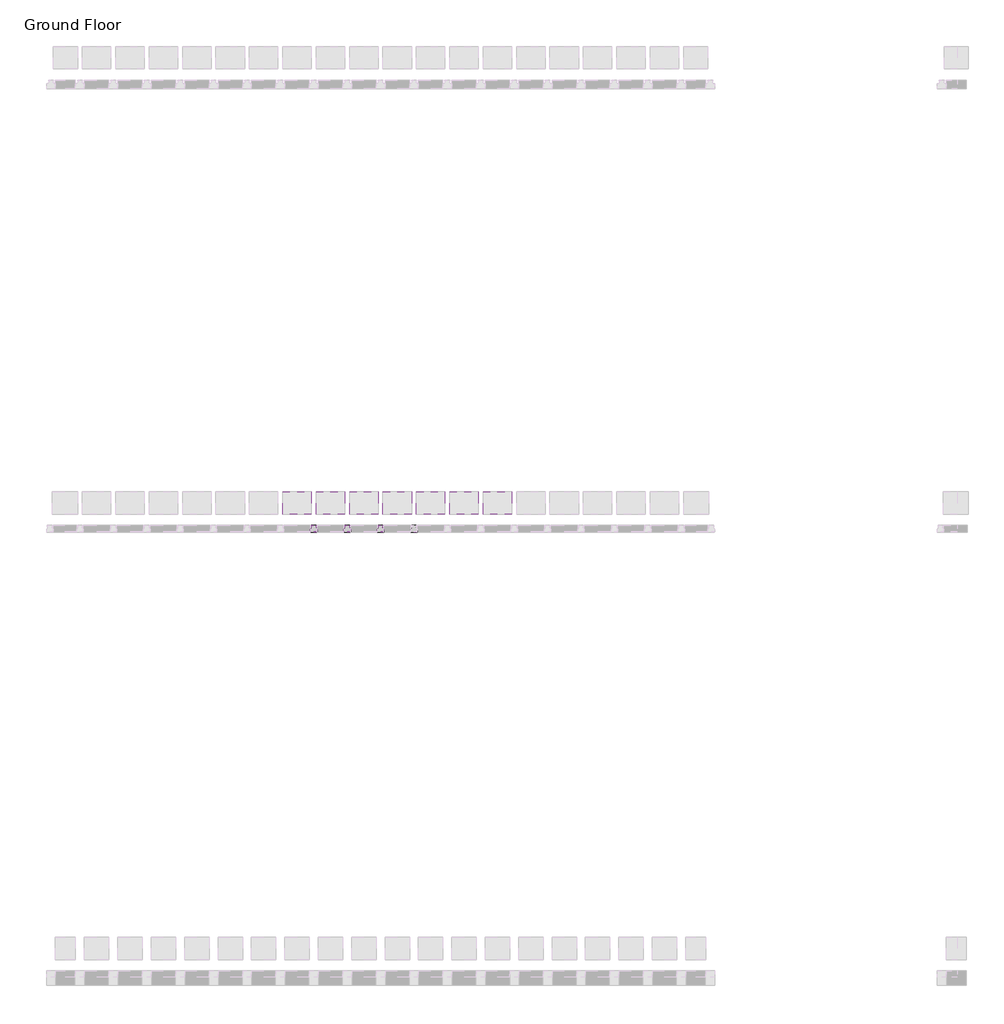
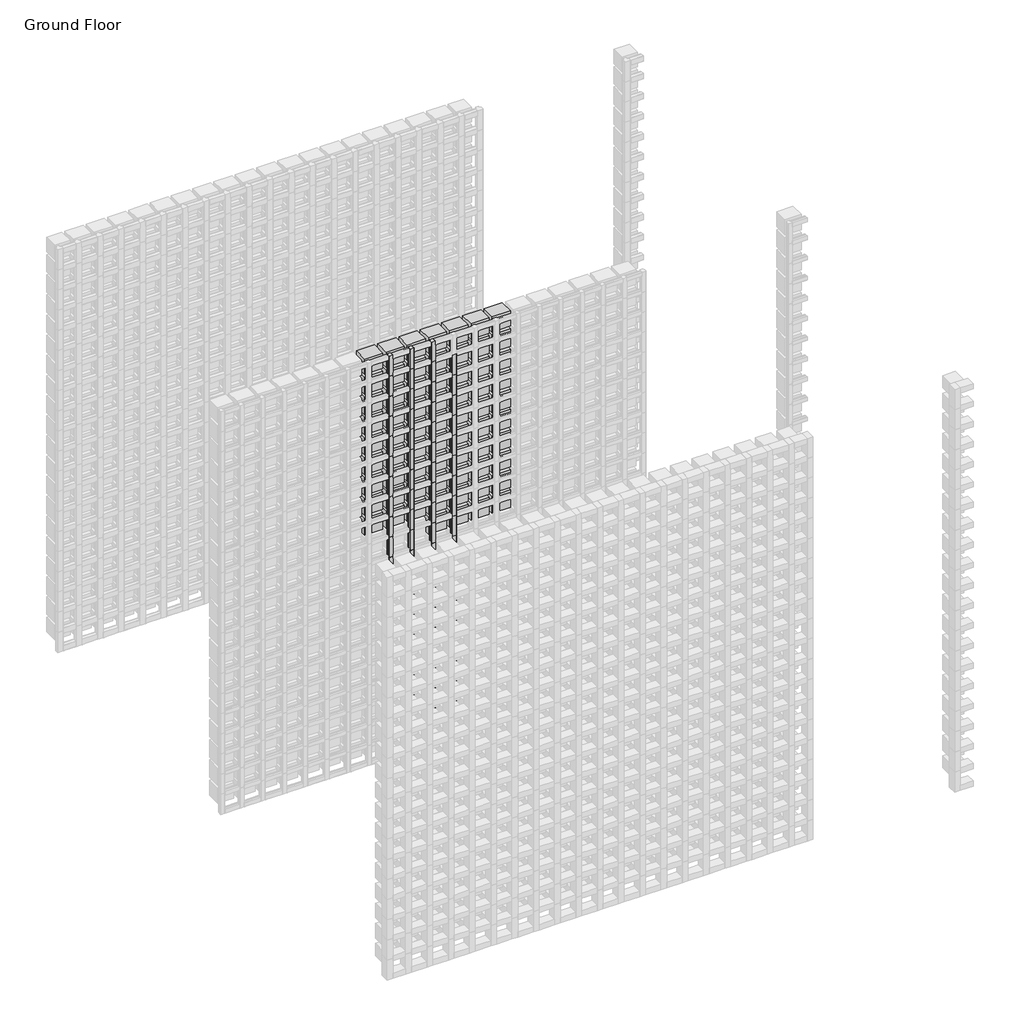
# One storey, part 139 of 350: 75 members, 67 plates.
"""IFC4 building model written with IfcOpenShell, lengths in millimetres."""

from ifc_helpers import new_model, si_unit, origin, place, context, project, spatial, transform, mapped, element, save
from components import rectangular_mullion_f1976eb1, empty_system_panel_empty_5a3607ba, empty_system_panel_empty_babc703c

model = new_model("IFC4")

# Units and contexts
model_context = context("Model", 3, world=origin())
ifc_project = project(units=[si_unit("LENGTHUNIT", "METRE", prefix="MILLI")], contexts=[model_context])

# Site, building, storey
site = spatial("IfcSite", under=ifc_project)
building = spatial("IfcBuilding", under=site)
storey = spatial("IfcBuildingStorey", under=building, Name="Ground Floor", Elevation=0.0)

# Members
placement = place(None, origin())
rectangular_mullion_shape = rectangular_mullion_f1976eb1(model_context)
element("IfcMember", 1, ObjectType="Rectangular Mullion : Batten_Timber_Modinex_Austratus_Grid_Fin_30x30_Hemlock", at=placement, inside=storey, context=model_context, shape_type="MappedRepresentation", body=[
    mapped(rectangular_mullion_shape, transform((11116.4361642, 42968.2978302, 150.0), x_axis=(1.0, 0.0, 0.0), y_axis=(0.0, -1.0, 0.0), z_axis=(0.0, 0.0, -1.0))),
])
element("IfcMember", 2, ObjectType="Rectangular Mullion : Batten_Timber_Modinex_Austratus_Grid_Fin_30x30_Hemlock", at=placement, inside=storey, context=model_context, shape_type="MappedRepresentation", body=[
    mapped(rectangular_mullion_shape, transform((11116.4361642, 42968.2978302, 300.0), x_axis=(1.0, 0.0, 0.0), y_axis=(0.0, -1.0, 0.0), z_axis=(0.0, 0.0, -1.0))),
])
element("IfcMember", 3, ObjectType="Rectangular Mullion : Batten_Timber_Modinex_Austratus_Grid_Fin_30x30_Hemlock", at=placement, inside=storey, context=model_context, shape_type="MappedRepresentation", body=[
    mapped(rectangular_mullion_shape, transform((11116.4361642, 42968.2978302, 450.0), x_axis=(1.0, 0.0, 0.0), y_axis=(0.0, -1.0, 0.0), z_axis=(0.0, 0.0, -1.0))),
])
element("IfcMember", 4, ObjectType="Rectangular Mullion : Batten_Timber_Modinex_Austratus_Grid_Fin_30x30_Hemlock", at=placement, inside=storey, context=model_context, shape_type="MappedRepresentation", body=[
    mapped(rectangular_mullion_shape, transform((11116.4361642, 42968.2978302, 600.0), x_axis=(1.0, 0.0, 0.0), y_axis=(0.0, -1.0, 0.0), z_axis=(0.0, 0.0, -1.0))),
])
element("IfcMember", 5, ObjectType="Rectangular Mullion : Batten_Timber_Modinex_Austratus_Grid_Fin_30x30_Hemlock", at=placement, inside=storey, context=model_context, shape_type="MappedRepresentation", body=[
    mapped(rectangular_mullion_shape, transform((11116.4361642, 42968.2978302, 750.0), x_axis=(1.0, 0.0, 0.0), y_axis=(0.0, -1.0, 0.0), z_axis=(0.0, 0.0, -1.0))),
])
element("IfcMember", 6, ObjectType="Rectangular Mullion : Batten_Timber_Modinex_Austratus_Grid_Fin_30x30_Hemlock", at=placement, inside=storey, context=model_context, shape_type="MappedRepresentation", body=[
    mapped(rectangular_mullion_shape, transform((11116.4361642, 42968.2978302, 900.0), x_axis=(1.0, 0.0, 0.0), y_axis=(0.0, -1.0, 0.0), z_axis=(0.0, 0.0, -1.0))),
])
element("IfcMember", 7, ObjectType="Rectangular Mullion : Batten_Timber_Modinex_Austratus_Grid_Fin_30x30_Hemlock", at=placement, inside=storey, context=model_context, shape_type="MappedRepresentation", body=[
    mapped(rectangular_mullion_shape, transform((11116.4361642, 42968.2978302, 1050.0), x_axis=(1.0, 0.0, 0.0), y_axis=(0.0, -1.0, 0.0), z_axis=(0.0, 0.0, -1.0))),
])
element("IfcMember", 8, ObjectType="Rectangular Mullion : Batten_Timber_Modinex_Austratus_Grid_Fin_30x30_Hemlock", at=placement, inside=storey, context=model_context, shape_type="MappedRepresentation", body=[
    mapped(rectangular_mullion_shape, transform((11116.4361642, 42968.2978302, 1200.0), x_axis=(1.0, 0.0, 0.0), y_axis=(0.0, -1.0, 0.0), z_axis=(0.0, 0.0, -1.0))),
])
element("IfcMember", 9, ObjectType="Rectangular Mullion : Batten_Timber_Modinex_Austratus_Grid_Fin_30x30_Hemlock", at=placement, inside=storey, context=model_context, shape_type="MappedRepresentation", body=[
    mapped(rectangular_mullion_shape, transform((11116.4361642, 42968.2978302, 1350.0), x_axis=(1.0, 0.0, 0.0), y_axis=(0.0, -1.0, 0.0), z_axis=(0.0, 0.0, -1.0))),
])
element("IfcMember", 10, ObjectType="Rectangular Mullion : Batten_Timber_Modinex_Austratus_Grid_Fin_30x30_Hemlock", at=placement, inside=storey, context=model_context, shape_type="MappedRepresentation", body=[
    mapped(rectangular_mullion_shape, transform((11116.4361642, 42968.2978302, 1500.0), x_axis=(1.0, 0.0, 0.0), y_axis=(0.0, -1.0, 0.0), z_axis=(0.0, 0.0, -1.0))),
])
element("IfcMember", 11, ObjectType="Rectangular Mullion : Batten_Timber_Modinex_Austratus_Grid_Fin_30x30_Hemlock", at=placement, inside=storey, context=model_context, shape_type="MappedRepresentation", body=[
    mapped(rectangular_mullion_shape, transform((11116.4361642, 42968.2978302, 1650.0), x_axis=(1.0, 0.0, 0.0), y_axis=(0.0, -1.0, 0.0), z_axis=(0.0, 0.0, -1.0))),
])
element("IfcMember", 12, ObjectType="Rectangular Mullion : Batten_Timber_Modinex_Austratus_Grid_Fin_30x30_Hemlock", at=placement, inside=storey, context=model_context, shape_type="MappedRepresentation", body=[
    mapped(rectangular_mullion_shape, transform((11116.4361642, 42968.2978302, 1800.0), x_axis=(1.0, 0.0, 0.0), y_axis=(0.0, -1.0, 0.0), z_axis=(0.0, 0.0, -1.0))),
])
element("IfcMember", 13, ObjectType="Rectangular Mullion : Batten_Timber_Modinex_Austratus_Grid_Fin_30x30_Hemlock", at=placement, inside=storey, context=model_context, shape_type="MappedRepresentation", body=[
    mapped(rectangular_mullion_shape, transform((11116.4361642, 42968.2978302, 1950.0), x_axis=(1.0, 0.0, 0.0), y_axis=(0.0, -1.0, 0.0), z_axis=(0.0, 0.0, -1.0))),
])
element("IfcMember", 14, ObjectType="Rectangular Mullion : Batten_Timber_Modinex_Austratus_Grid_Fin_30x30_Hemlock", at=placement, inside=storey, context=model_context, shape_type="MappedRepresentation", body=[
    mapped(rectangular_mullion_shape, transform((11116.4361642, 42968.2978302, 2100.0), x_axis=(1.0, 0.0, 0.0), y_axis=(0.0, -1.0, 0.0), z_axis=(0.0, 0.0, -1.0))),
])
element("IfcMember", 15, ObjectType="Rectangular Mullion : Batten_Timber_Modinex_Austratus_Grid_Fin_30x30_Hemlock", at=placement, inside=storey, context=model_context, shape_type="MappedRepresentation", body=[
    mapped(rectangular_mullion_shape, transform((11116.4361642, 42968.2978302, 2250.0), x_axis=(1.0, 0.0, 0.0), y_axis=(0.0, -1.0, 0.0), z_axis=(0.0, 0.0, -1.0))),
])
element("IfcMember", 16, ObjectType="Rectangular Mullion : Batten_Timber_Modinex_Austratus_Grid_Fin_30x30_Hemlock", at=placement, inside=storey, context=model_context, shape_type="MappedRepresentation", body=[
    mapped(rectangular_mullion_shape, transform((11116.4361642, 42968.2978302, 2400.0), x_axis=(1.0, 0.0, 0.0), y_axis=(0.0, -1.0, 0.0), z_axis=(0.0, 0.0, -1.0))),
])
element("IfcMember", 17, ObjectType="Rectangular Mullion : Batten_Timber_Modinex_Austratus_Grid_Fin_30x30_Hemlock", at=placement, inside=storey, context=model_context, shape_type="MappedRepresentation", body=[
    mapped(rectangular_mullion_shape, transform((11116.4361642, 42968.2978302, 2550.0), x_axis=(1.0, 0.0, 0.0), y_axis=(0.0, -1.0, 0.0), z_axis=(0.0, 0.0, -1.0))),
])
element("IfcMember", 18, ObjectType="Rectangular Mullion : Batten_Timber_Modinex_Austratus_Grid_Fin_30x30_Hemlock", at=placement, inside=storey, context=model_context, shape_type="MappedRepresentation", body=[
    mapped(rectangular_mullion_shape, transform((11116.4361642, 42968.2978302, 2700.0), x_axis=(1.0, 0.0, 0.0), y_axis=(0.0, -1.0, 0.0), z_axis=(0.0, 0.0, -1.0))),
])
element("IfcMember", 19, ObjectType="Rectangular Mullion : Batten_Timber_Modinex_Austratus_Grid_Fin_30x30_Hemlock", at=placement, inside=storey, context=model_context, shape_type="MappedRepresentation", body=[
    mapped(rectangular_mullion_shape, transform((11266.4361642, 42968.2978302, 150.0), x_axis=(1.0, 0.0, 0.0), y_axis=(0.0, -1.0, 0.0), z_axis=(0.0, 0.0, -1.0))),
])
element("IfcMember", 20, ObjectType="Rectangular Mullion : Batten_Timber_Modinex_Austratus_Grid_Fin_30x30_Hemlock", at=placement, inside=storey, context=model_context, shape_type="MappedRepresentation", body=[
    mapped(rectangular_mullion_shape, transform((11266.4361642, 42968.2978302, 300.0), x_axis=(1.0, 0.0, 0.0), y_axis=(0.0, -1.0, 0.0), z_axis=(0.0, 0.0, -1.0))),
])
element("IfcMember", 21, ObjectType="Rectangular Mullion : Batten_Timber_Modinex_Austratus_Grid_Fin_30x30_Hemlock", at=placement, inside=storey, context=model_context, shape_type="MappedRepresentation", body=[
    mapped(rectangular_mullion_shape, transform((11266.4361642, 42968.2978302, 450.0), x_axis=(1.0, 0.0, 0.0), y_axis=(0.0, -1.0, 0.0), z_axis=(0.0, 0.0, -1.0))),
])
element("IfcMember", 22, ObjectType="Rectangular Mullion : Batten_Timber_Modinex_Austratus_Grid_Fin_30x30_Hemlock", at=placement, inside=storey, context=model_context, shape_type="MappedRepresentation", body=[
    mapped(rectangular_mullion_shape, transform((11266.4361642, 42968.2978302, 600.0), x_axis=(1.0, 0.0, 0.0), y_axis=(0.0, -1.0, 0.0), z_axis=(0.0, 0.0, -1.0))),
])
element("IfcMember", 23, ObjectType="Rectangular Mullion : Batten_Timber_Modinex_Austratus_Grid_Fin_30x30_Hemlock", at=placement, inside=storey, context=model_context, shape_type="MappedRepresentation", body=[
    mapped(rectangular_mullion_shape, transform((11266.4361642, 42968.2978302, 750.0), x_axis=(1.0, 0.0, 0.0), y_axis=(0.0, -1.0, 0.0), z_axis=(0.0, 0.0, -1.0))),
])
element("IfcMember", 24, ObjectType="Rectangular Mullion : Batten_Timber_Modinex_Austratus_Grid_Fin_30x30_Hemlock", at=placement, inside=storey, context=model_context, shape_type="MappedRepresentation", body=[
    mapped(rectangular_mullion_shape, transform((11266.4361642, 42968.2978302, 900.0), x_axis=(1.0, 0.0, 0.0), y_axis=(0.0, -1.0, 0.0), z_axis=(0.0, 0.0, -1.0))),
])
element("IfcMember", 25, ObjectType="Rectangular Mullion : Batten_Timber_Modinex_Austratus_Grid_Fin_30x30_Hemlock", at=placement, inside=storey, context=model_context, shape_type="MappedRepresentation", body=[
    mapped(rectangular_mullion_shape, transform((11266.4361642, 42968.2978302, 1050.0), x_axis=(1.0, 0.0, 0.0), y_axis=(0.0, -1.0, 0.0), z_axis=(0.0, 0.0, -1.0))),
])
element("IfcMember", 26, ObjectType="Rectangular Mullion : Batten_Timber_Modinex_Austratus_Grid_Fin_30x30_Hemlock", at=placement, inside=storey, context=model_context, shape_type="MappedRepresentation", body=[
    mapped(rectangular_mullion_shape, transform((11266.4361642, 42968.2978302, 1200.0), x_axis=(1.0, 0.0, 0.0), y_axis=(0.0, -1.0, 0.0), z_axis=(0.0, 0.0, -1.0))),
])
element("IfcMember", 27, ObjectType="Rectangular Mullion : Batten_Timber_Modinex_Austratus_Grid_Fin_30x30_Hemlock", at=placement, inside=storey, context=model_context, shape_type="MappedRepresentation", body=[
    mapped(rectangular_mullion_shape, transform((11266.4361642, 42968.2978302, 1350.0), x_axis=(1.0, 0.0, 0.0), y_axis=(0.0, -1.0, 0.0), z_axis=(0.0, 0.0, -1.0))),
])
element("IfcMember", 28, ObjectType="Rectangular Mullion : Batten_Timber_Modinex_Austratus_Grid_Fin_30x30_Hemlock", at=placement, inside=storey, context=model_context, shape_type="MappedRepresentation", body=[
    mapped(rectangular_mullion_shape, transform((11266.4361642, 42968.2978302, 1500.0), x_axis=(1.0, 0.0, 0.0), y_axis=(0.0, -1.0, 0.0), z_axis=(0.0, 0.0, -1.0))),
])
element("IfcMember", 29, ObjectType="Rectangular Mullion : Batten_Timber_Modinex_Austratus_Grid_Fin_30x30_Hemlock", at=placement, inside=storey, context=model_context, shape_type="MappedRepresentation", body=[
    mapped(rectangular_mullion_shape, transform((11266.4361642, 42968.2978302, 1650.0), x_axis=(1.0, 0.0, 0.0), y_axis=(0.0, -1.0, 0.0), z_axis=(0.0, 0.0, -1.0))),
])
element("IfcMember", 30, ObjectType="Rectangular Mullion : Batten_Timber_Modinex_Austratus_Grid_Fin_30x30_Hemlock", at=placement, inside=storey, context=model_context, shape_type="MappedRepresentation", body=[
    mapped(rectangular_mullion_shape, transform((11266.4361642, 42968.2978302, 1800.0), x_axis=(1.0, 0.0, 0.0), y_axis=(0.0, -1.0, 0.0), z_axis=(0.0, 0.0, -1.0))),
])
element("IfcMember", 31, ObjectType="Rectangular Mullion : Batten_Timber_Modinex_Austratus_Grid_Fin_30x30_Hemlock", at=placement, inside=storey, context=model_context, shape_type="MappedRepresentation", body=[
    mapped(rectangular_mullion_shape, transform((11266.4361642, 42968.2978302, 1950.0), x_axis=(1.0, 0.0, 0.0), y_axis=(0.0, -1.0, 0.0), z_axis=(0.0, 0.0, -1.0))),
])
element("IfcMember", 32, ObjectType="Rectangular Mullion : Batten_Timber_Modinex_Austratus_Grid_Fin_30x30_Hemlock", at=placement, inside=storey, context=model_context, shape_type="MappedRepresentation", body=[
    mapped(rectangular_mullion_shape, transform((11266.4361642, 42968.2978302, 2100.0), x_axis=(1.0, 0.0, 0.0), y_axis=(0.0, -1.0, 0.0), z_axis=(0.0, 0.0, -1.0))),
])
element("IfcMember", 33, ObjectType="Rectangular Mullion : Batten_Timber_Modinex_Austratus_Grid_Fin_30x30_Hemlock", at=placement, inside=storey, context=model_context, shape_type="MappedRepresentation", body=[
    mapped(rectangular_mullion_shape, transform((11266.4361642, 42968.2978302, 2250.0), x_axis=(1.0, 0.0, 0.0), y_axis=(0.0, -1.0, 0.0), z_axis=(0.0, 0.0, -1.0))),
])
element("IfcMember", 34, ObjectType="Rectangular Mullion : Batten_Timber_Modinex_Austratus_Grid_Fin_30x30_Hemlock", at=placement, inside=storey, context=model_context, shape_type="MappedRepresentation", body=[
    mapped(rectangular_mullion_shape, transform((11266.4361642, 42968.2978302, 2400.0), x_axis=(1.0, 0.0, 0.0), y_axis=(0.0, -1.0, 0.0), z_axis=(0.0, 0.0, -1.0))),
])
element("IfcMember", 35, ObjectType="Rectangular Mullion : Batten_Timber_Modinex_Austratus_Grid_Fin_30x30_Hemlock", at=placement, inside=storey, context=model_context, shape_type="MappedRepresentation", body=[
    mapped(rectangular_mullion_shape, transform((11266.4361642, 42968.2978302, 2550.0), x_axis=(1.0, 0.0, 0.0), y_axis=(0.0, -1.0, 0.0), z_axis=(0.0, 0.0, -1.0))),
])
element("IfcMember", 36, ObjectType="Rectangular Mullion : Batten_Timber_Modinex_Austratus_Grid_Fin_30x30_Hemlock", at=placement, inside=storey, context=model_context, shape_type="MappedRepresentation", body=[
    mapped(rectangular_mullion_shape, transform((11266.4361642, 42968.2978302, 2700.0), x_axis=(1.0, 0.0, 0.0), y_axis=(0.0, -1.0, 0.0), z_axis=(0.0, 0.0, -1.0))),
])
element("IfcMember", 37, ObjectType="Rectangular Mullion : Batten_Timber_Modinex_Austratus_Grid_Fin_30x30_Hemlock", at=placement, inside=storey, context=model_context, shape_type="MappedRepresentation", body=[
    mapped(rectangular_mullion_shape, transform((11416.4361642, 42968.2978302, 150.0), x_axis=(1.0, 0.0, 0.0), y_axis=(0.0, -1.0, 0.0), z_axis=(0.0, 0.0, -1.0))),
])
element("IfcMember", 38, ObjectType="Rectangular Mullion : Batten_Timber_Modinex_Austratus_Grid_Fin_30x30_Hemlock", at=placement, inside=storey, context=model_context, shape_type="MappedRepresentation", body=[
    mapped(rectangular_mullion_shape, transform((11416.4361642, 42968.2978302, 300.0), x_axis=(1.0, 0.0, 0.0), y_axis=(0.0, -1.0, 0.0), z_axis=(0.0, 0.0, -1.0))),
])
element("IfcMember", 39, ObjectType="Rectangular Mullion : Batten_Timber_Modinex_Austratus_Grid_Fin_30x30_Hemlock", at=placement, inside=storey, context=model_context, shape_type="MappedRepresentation", body=[
    mapped(rectangular_mullion_shape, transform((11416.4361642, 42968.2978302, 450.0), x_axis=(1.0, 0.0, 0.0), y_axis=(0.0, -1.0, 0.0), z_axis=(0.0, 0.0, -1.0))),
])
element("IfcMember", 40, ObjectType="Rectangular Mullion : Batten_Timber_Modinex_Austratus_Grid_Fin_30x30_Hemlock", at=placement, inside=storey, context=model_context, shape_type="MappedRepresentation", body=[
    mapped(rectangular_mullion_shape, transform((11416.4361642, 42968.2978302, 600.0), x_axis=(1.0, 0.0, 0.0), y_axis=(0.0, -1.0, 0.0), z_axis=(0.0, 0.0, -1.0))),
])
element("IfcMember", 41, ObjectType="Rectangular Mullion : Batten_Timber_Modinex_Austratus_Grid_Fin_30x30_Hemlock", at=placement, inside=storey, context=model_context, shape_type="MappedRepresentation", body=[
    mapped(rectangular_mullion_shape, transform((11416.4361642, 42968.2978302, 750.0), x_axis=(1.0, 0.0, 0.0), y_axis=(0.0, -1.0, 0.0), z_axis=(0.0, 0.0, -1.0))),
])
element("IfcMember", 42, ObjectType="Rectangular Mullion : Batten_Timber_Modinex_Austratus_Grid_Fin_30x30_Hemlock", at=placement, inside=storey, context=model_context, shape_type="MappedRepresentation", body=[
    mapped(rectangular_mullion_shape, transform((11416.4361642, 42968.2978302, 900.0), x_axis=(1.0, 0.0, 0.0), y_axis=(0.0, -1.0, 0.0), z_axis=(0.0, 0.0, -1.0))),
])
element("IfcMember", 43, ObjectType="Rectangular Mullion : Batten_Timber_Modinex_Austratus_Grid_Fin_30x30_Hemlock", at=placement, inside=storey, context=model_context, shape_type="MappedRepresentation", body=[
    mapped(rectangular_mullion_shape, transform((11416.4361642, 42968.2978302, 1050.0), x_axis=(1.0, 0.0, 0.0), y_axis=(0.0, -1.0, 0.0), z_axis=(0.0, 0.0, -1.0))),
])
element("IfcMember", 44, ObjectType="Rectangular Mullion : Batten_Timber_Modinex_Austratus_Grid_Fin_30x30_Hemlock", at=placement, inside=storey, context=model_context, shape_type="MappedRepresentation", body=[
    mapped(rectangular_mullion_shape, transform((11416.4361642, 42968.2978302, 1200.0), x_axis=(1.0, 0.0, 0.0), y_axis=(0.0, -1.0, 0.0), z_axis=(0.0, 0.0, -1.0))),
])
element("IfcMember", 45, ObjectType="Rectangular Mullion : Batten_Timber_Modinex_Austratus_Grid_Fin_30x30_Hemlock", at=placement, inside=storey, context=model_context, shape_type="MappedRepresentation", body=[
    mapped(rectangular_mullion_shape, transform((11416.4361642, 42968.2978302, 1350.0), x_axis=(1.0, 0.0, 0.0), y_axis=(0.0, -1.0, 0.0), z_axis=(0.0, 0.0, -1.0))),
])
element("IfcMember", 46, ObjectType="Rectangular Mullion : Batten_Timber_Modinex_Austratus_Grid_Fin_30x30_Hemlock", at=placement, inside=storey, context=model_context, shape_type="MappedRepresentation", body=[
    mapped(rectangular_mullion_shape, transform((11416.4361642, 42968.2978302, 1500.0), x_axis=(1.0, 0.0, 0.0), y_axis=(0.0, -1.0, 0.0), z_axis=(0.0, 0.0, -1.0))),
])
element("IfcMember", 47, ObjectType="Rectangular Mullion : Batten_Timber_Modinex_Austratus_Grid_Fin_30x30_Hemlock", at=placement, inside=storey, context=model_context, shape_type="MappedRepresentation", body=[
    mapped(rectangular_mullion_shape, transform((11416.4361642, 42968.2978302, 1650.0), x_axis=(1.0, 0.0, 0.0), y_axis=(0.0, -1.0, 0.0), z_axis=(0.0, 0.0, -1.0))),
])
element("IfcMember", 48, ObjectType="Rectangular Mullion : Batten_Timber_Modinex_Austratus_Grid_Fin_30x30_Hemlock", at=placement, inside=storey, context=model_context, shape_type="MappedRepresentation", body=[
    mapped(rectangular_mullion_shape, transform((11416.4361642, 42968.2978302, 1800.0), x_axis=(1.0, 0.0, 0.0), y_axis=(0.0, -1.0, 0.0), z_axis=(0.0, 0.0, -1.0))),
])
element("IfcMember", 49, ObjectType="Rectangular Mullion : Batten_Timber_Modinex_Austratus_Grid_Fin_30x30_Hemlock", at=placement, inside=storey, context=model_context, shape_type="MappedRepresentation", body=[
    mapped(rectangular_mullion_shape, transform((11416.4361642, 42968.2978302, 1950.0), x_axis=(1.0, 0.0, 0.0), y_axis=(0.0, -1.0, 0.0), z_axis=(0.0, 0.0, -1.0))),
])
element("IfcMember", 50, ObjectType="Rectangular Mullion : Batten_Timber_Modinex_Austratus_Grid_Fin_30x30_Hemlock", at=placement, inside=storey, context=model_context, shape_type="MappedRepresentation", body=[
    mapped(rectangular_mullion_shape, transform((11416.4361642, 42968.2978302, 2100.0), x_axis=(1.0, 0.0, 0.0), y_axis=(0.0, -1.0, 0.0), z_axis=(0.0, 0.0, -1.0))),
])
element("IfcMember", 51, ObjectType="Rectangular Mullion : Batten_Timber_Modinex_Austratus_Grid_Fin_30x30_Hemlock", at=placement, inside=storey, context=model_context, shape_type="MappedRepresentation", body=[
    mapped(rectangular_mullion_shape, transform((11416.4361642, 42968.2978302, 2250.0), x_axis=(1.0, 0.0, 0.0), y_axis=(0.0, -1.0, 0.0), z_axis=(0.0, 0.0, -1.0))),
])
element("IfcMember", 52, ObjectType="Rectangular Mullion : Batten_Timber_Modinex_Austratus_Grid_Fin_30x30_Hemlock", at=placement, inside=storey, context=model_context, shape_type="MappedRepresentation", body=[
    mapped(rectangular_mullion_shape, transform((11416.4361642, 42968.2978302, 2400.0), x_axis=(1.0, 0.0, 0.0), y_axis=(0.0, -1.0, 0.0), z_axis=(0.0, 0.0, -1.0))),
])
element("IfcMember", 53, ObjectType="Rectangular Mullion : Batten_Timber_Modinex_Austratus_Grid_Fin_30x30_Hemlock", at=placement, inside=storey, context=model_context, shape_type="MappedRepresentation", body=[
    mapped(rectangular_mullion_shape, transform((11416.4361642, 42968.2978302, 2550.0), x_axis=(1.0, 0.0, 0.0), y_axis=(0.0, -1.0, 0.0), z_axis=(0.0, 0.0, -1.0))),
])
element("IfcMember", 54, ObjectType="Rectangular Mullion : Batten_Timber_Modinex_Austratus_Grid_Fin_30x30_Hemlock", at=placement, inside=storey, context=model_context, shape_type="MappedRepresentation", body=[
    mapped(rectangular_mullion_shape, transform((11416.4361642, 42968.2978302, 2700.0), x_axis=(1.0, 0.0, 0.0), y_axis=(0.0, -1.0, 0.0), z_axis=(0.0, 0.0, -1.0))),
])
element("IfcMember", 55, ObjectType="Rectangular Mullion : Batten_Timber_Modinex_Austratus_Grid_Fin_30x30_Hemlock", at=placement, inside=storey, context=model_context, shape_type="MappedRepresentation", body=[
    mapped(rectangular_mullion_shape, transform((11566.4361642, 42968.2978302, 150.0), x_axis=(1.0, 0.0, 0.0), y_axis=(0.0, -1.0, 0.0), z_axis=(0.0, 0.0, -1.0))),
])
element("IfcMember", 56, ObjectType="Rectangular Mullion : Batten_Timber_Modinex_Austratus_Grid_Fin_30x30_Hemlock", at=placement, inside=storey, context=model_context, shape_type="MappedRepresentation", body=[
    mapped(rectangular_mullion_shape, transform((11566.4361642, 42968.2978302, 300.0), x_axis=(1.0, 0.0, 0.0), y_axis=(0.0, -1.0, 0.0), z_axis=(0.0, 0.0, -1.0))),
])
element("IfcMember", 57, ObjectType="Rectangular Mullion : Batten_Timber_Modinex_Austratus_Grid_Fin_30x30_Hemlock", at=placement, inside=storey, context=model_context, shape_type="MappedRepresentation", body=[
    mapped(rectangular_mullion_shape, transform((11566.4361642, 42968.2978302, 450.0), x_axis=(1.0, 0.0, 0.0), y_axis=(0.0, -1.0, 0.0), z_axis=(0.0, 0.0, -1.0))),
])
element("IfcMember", 58, ObjectType="Rectangular Mullion : Batten_Timber_Modinex_Austratus_Grid_Fin_30x30_Hemlock", at=placement, inside=storey, context=model_context, shape_type="MappedRepresentation", body=[
    mapped(rectangular_mullion_shape, transform((11566.4361642, 42968.2978302, 600.0), x_axis=(1.0, 0.0, 0.0), y_axis=(0.0, -1.0, 0.0), z_axis=(0.0, 0.0, -1.0))),
])
element("IfcMember", 59, ObjectType="Rectangular Mullion : Batten_Timber_Modinex_Austratus_Grid_Fin_30x30_Hemlock", at=placement, inside=storey, context=model_context, shape_type="MappedRepresentation", body=[
    mapped(rectangular_mullion_shape, transform((11566.4361642, 42968.2978302, 750.0), x_axis=(1.0, 0.0, 0.0), y_axis=(0.0, -1.0, 0.0), z_axis=(0.0, 0.0, -1.0))),
])
element("IfcMember", 60, ObjectType="Rectangular Mullion : Batten_Timber_Modinex_Austratus_Grid_Fin_30x30_Hemlock", at=placement, inside=storey, context=model_context, shape_type="MappedRepresentation", body=[
    mapped(rectangular_mullion_shape, transform((11566.4361642, 42968.2978302, 900.0), x_axis=(1.0, 0.0, 0.0), y_axis=(0.0, -1.0, 0.0), z_axis=(0.0, 0.0, -1.0))),
])
element("IfcMember", 61, ObjectType="Rectangular Mullion : Batten_Timber_Modinex_Austratus_Grid_Fin_30x30_Hemlock", at=placement, inside=storey, context=model_context, shape_type="MappedRepresentation", body=[
    mapped(rectangular_mullion_shape, transform((11566.4361642, 42968.2978302, 1050.0), x_axis=(1.0, 0.0, 0.0), y_axis=(0.0, -1.0, 0.0), z_axis=(0.0, 0.0, -1.0))),
])
element("IfcMember", 62, ObjectType="Rectangular Mullion : Batten_Timber_Modinex_Austratus_Grid_Fin_30x30_Hemlock", at=placement, inside=storey, context=model_context, shape_type="MappedRepresentation", body=[
    mapped(rectangular_mullion_shape, transform((11566.4361642, 42968.2978302, 1200.0), x_axis=(1.0, 0.0, 0.0), y_axis=(0.0, -1.0, 0.0), z_axis=(0.0, 0.0, -1.0))),
])
element("IfcMember", 63, ObjectType="Rectangular Mullion : Batten_Timber_Modinex_Austratus_Grid_Fin_30x30_Hemlock", at=placement, inside=storey, context=model_context, shape_type="MappedRepresentation", body=[
    mapped(rectangular_mullion_shape, transform((11566.4361642, 42968.2978302, 1350.0), x_axis=(1.0, 0.0, 0.0), y_axis=(0.0, -1.0, 0.0), z_axis=(0.0, 0.0, -1.0))),
])
element("IfcMember", 64, ObjectType="Rectangular Mullion : Batten_Timber_Modinex_Austratus_Grid_Fin_30x30_Hemlock", at=placement, inside=storey, context=model_context, shape_type="MappedRepresentation", body=[
    mapped(rectangular_mullion_shape, transform((11566.4361642, 42968.2978302, 1500.0), x_axis=(1.0, 0.0, 0.0), y_axis=(0.0, -1.0, 0.0), z_axis=(0.0, 0.0, -1.0))),
])
element("IfcMember", 65, ObjectType="Rectangular Mullion : Batten_Timber_Modinex_Austratus_Grid_Fin_30x30_Hemlock", at=placement, inside=storey, context=model_context, shape_type="MappedRepresentation", body=[
    mapped(rectangular_mullion_shape, transform((11566.4361642, 42968.2978302, 1650.0), x_axis=(1.0, 0.0, 0.0), y_axis=(0.0, -1.0, 0.0), z_axis=(0.0, 0.0, -1.0))),
])
element("IfcMember", 66, ObjectType="Rectangular Mullion : Batten_Timber_Modinex_Austratus_Grid_Fin_30x30_Hemlock", at=placement, inside=storey, context=model_context, shape_type="MappedRepresentation", body=[
    mapped(rectangular_mullion_shape, transform((11566.4361642, 42968.2978302, 1800.0), x_axis=(1.0, 0.0, 0.0), y_axis=(0.0, -1.0, 0.0), z_axis=(0.0, 0.0, -1.0))),
])
element("IfcMember", 67, ObjectType="Rectangular Mullion : Batten_Timber_Modinex_Austratus_Grid_Fin_30x30_Hemlock", at=placement, inside=storey, context=model_context, shape_type="MappedRepresentation", body=[
    mapped(rectangular_mullion_shape, transform((11566.4361642, 42968.2978302, 1950.0), x_axis=(1.0, 0.0, 0.0), y_axis=(0.0, -1.0, 0.0), z_axis=(0.0, 0.0, -1.0))),
])
element("IfcMember", 68, ObjectType="Rectangular Mullion : Batten_Timber_Modinex_Austratus_Grid_Fin_30x30_Hemlock", at=placement, inside=storey, context=model_context, shape_type="MappedRepresentation", body=[
    mapped(rectangular_mullion_shape, transform((11566.4361642, 42968.2978302, 2100.0), x_axis=(1.0, 0.0, 0.0), y_axis=(0.0, -1.0, 0.0), z_axis=(0.0, 0.0, -1.0))),
])
element("IfcMember", 69, ObjectType="Rectangular Mullion : Batten_Timber_Modinex_Austratus_Grid_Fin_30x30_Hemlock", at=placement, inside=storey, context=model_context, shape_type="MappedRepresentation", body=[
    mapped(rectangular_mullion_shape, transform((11566.4361642, 42968.2978302, 2250.0), x_axis=(1.0, 0.0, 0.0), y_axis=(0.0, -1.0, 0.0), z_axis=(0.0, 0.0, -1.0))),
])
element("IfcMember", 70, ObjectType="Rectangular Mullion : Batten_Timber_Modinex_Austratus_Grid_Fin_30x30_Hemlock", at=placement, inside=storey, context=model_context, shape_type="MappedRepresentation", body=[
    mapped(rectangular_mullion_shape, transform((11566.4361642, 42968.2978302, 2400.0), x_axis=(1.0, 0.0, 0.0), y_axis=(0.0, -1.0, 0.0), z_axis=(0.0, 0.0, -1.0))),
])
element("IfcMember", 71, ObjectType="Rectangular Mullion : Batten_Timber_Modinex_Austratus_Grid_Fin_30x30_Hemlock", at=placement, inside=storey, context=model_context, shape_type="MappedRepresentation", body=[
    mapped(rectangular_mullion_shape, transform((11566.4361642, 42968.2978302, 2550.0), x_axis=(1.0, 0.0, 0.0), y_axis=(0.0, -1.0, 0.0), z_axis=(0.0, 0.0, -1.0))),
])
element("IfcMember", 72, ObjectType="Rectangular Mullion : Batten_Timber_Modinex_Austratus_Grid_Fin_30x30_Hemlock", at=placement, inside=storey, context=model_context, shape_type="MappedRepresentation", body=[
    mapped(rectangular_mullion_shape, transform((11566.4361642, 42968.2978302, 2700.0), x_axis=(1.0, 0.0, 0.0), y_axis=(0.0, -1.0, 0.0), z_axis=(0.0, 0.0, -1.0))),
])
element("IfcMember", 73, ObjectType="Rectangular Mullion : Batten_Timber_Modinex_Austratus_Grid_Fin_30x30_Hemlock", at=placement, inside=storey, context=model_context, shape_type="MappedRepresentation", body=[
    mapped(rectangular_mullion_shape, transform((11116.4361642, 42968.2978302, 2850.0), x_axis=(1.0, 0.0, 0.0), y_axis=(0.0, -1.0, 0.0), z_axis=(0.0, 0.0, -1.0))),
])
element("IfcMember", 74, ObjectType="Rectangular Mullion : Batten_Timber_Modinex_Austratus_Grid_Fin_30x30_Hemlock", at=placement, inside=storey, context=model_context, shape_type="MappedRepresentation", body=[
    mapped(rectangular_mullion_shape, transform((11266.4361642, 42968.2978302, 2850.0), x_axis=(1.0, 0.0, 0.0), y_axis=(0.0, -1.0, 0.0), z_axis=(0.0, 0.0, -1.0))),
])
element("IfcMember", 75, ObjectType="Rectangular Mullion : Batten_Timber_Modinex_Austratus_Grid_Fin_30x30_Hemlock", at=placement, inside=storey, context=model_context, shape_type="MappedRepresentation", body=[
    mapped(rectangular_mullion_shape, transform((11416.4361642, 42968.2978302, 2850.0), x_axis=(1.0, 0.0, 0.0), y_axis=(0.0, -1.0, 0.0), z_axis=(0.0, 0.0, -1.0))),
])

# Plates
empty_system_panel_empty_shape = empty_system_panel_empty_5a3607ba(model_context)
element("IfcPlate", 76, ObjectType="Empty System Panel : Empty", at=placement, inside=storey, context=model_context, shape_type="MappedRepresentation", body=[
    mapped(empty_system_panel_empty_shape, transform((11491.4361642, 42968.2978302, 1510.812195), x_axis=(1.0, 0.0, 0.0), y_axis=(0.0, 1.0, 0.0), z_axis=(0.0, 0.0, 1.0))),
])
element("IfcPlate", 77, ObjectType="Empty System Panel : Empty", at=placement, inside=storey, context=model_context, shape_type="MappedRepresentation", body=[
    mapped(empty_system_panel_empty_shape, transform((11641.4361642, 42968.2978302, 1510.812195), x_axis=(1.0, 0.0, 0.0), y_axis=(0.0, 1.0, 0.0), z_axis=(0.0, 0.0, 1.0))),
])
element("IfcPlate", 78, ObjectType="Empty System Panel : Empty", at=placement, inside=storey, context=model_context, shape_type="MappedRepresentation", body=[
    mapped(empty_system_panel_empty_shape, transform((11791.4361642, 42968.2978302, 1510.812195), x_axis=(1.0, 0.0, 0.0), y_axis=(0.0, 1.0, 0.0), z_axis=(0.0, 0.0, 1.0))),
])
element("IfcPlate", 79, ObjectType="Empty System Panel : Empty", at=placement, inside=storey, context=model_context, shape_type="MappedRepresentation", body=[
    mapped(empty_system_panel_empty_shape, transform((11941.4361642, 42968.2978302, 1510.812195), x_axis=(1.0, 0.0, 0.0), y_axis=(0.0, 1.0, 0.0), z_axis=(0.0, 0.0, 1.0))),
])
element("IfcPlate", 80, ObjectType="Empty System Panel : Empty", at=placement, inside=storey, context=model_context, shape_type="MappedRepresentation", body=[
    mapped(empty_system_panel_empty_shape, transform((11041.4361642, 42968.2978302, 1660.812195), x_axis=(1.0, 0.0, 0.0), y_axis=(0.0, 1.0, 0.0), z_axis=(0.0, 0.0, 1.0))),
])
element("IfcPlate", 81, ObjectType="Empty System Panel : Empty", at=placement, inside=storey, context=model_context, shape_type="MappedRepresentation", body=[
    mapped(empty_system_panel_empty_shape, transform((11191.4361642, 42968.2978302, 1660.812195), x_axis=(1.0, 0.0, 0.0), y_axis=(0.0, 1.0, 0.0), z_axis=(0.0, 0.0, 1.0))),
])
element("IfcPlate", 82, ObjectType="Empty System Panel : Empty", at=placement, inside=storey, context=model_context, shape_type="MappedRepresentation", body=[
    mapped(empty_system_panel_empty_shape, transform((11341.4361642, 42968.2978302, 1660.812195), x_axis=(1.0, 0.0, 0.0), y_axis=(0.0, 1.0, 0.0), z_axis=(0.0, 0.0, 1.0))),
])
element("IfcPlate", 83, ObjectType="Empty System Panel : Empty", at=placement, inside=storey, context=model_context, shape_type="MappedRepresentation", body=[
    mapped(empty_system_panel_empty_shape, transform((11491.4361642, 42968.2978302, 1660.812195), x_axis=(1.0, 0.0, 0.0), y_axis=(0.0, 1.0, 0.0), z_axis=(0.0, 0.0, 1.0))),
])
element("IfcPlate", 84, ObjectType="Empty System Panel : Empty", at=placement, inside=storey, context=model_context, shape_type="MappedRepresentation", body=[
    mapped(empty_system_panel_empty_shape, transform((11641.4361642, 42968.2978302, 1660.812195), x_axis=(1.0, 0.0, 0.0), y_axis=(0.0, 1.0, 0.0), z_axis=(0.0, 0.0, 1.0))),
])
element("IfcPlate", 85, ObjectType="Empty System Panel : Empty", at=placement, inside=storey, context=model_context, shape_type="MappedRepresentation", body=[
    mapped(empty_system_panel_empty_shape, transform((11791.4361642, 42968.2978302, 1660.812195), x_axis=(1.0, 0.0, 0.0), y_axis=(0.0, 1.0, 0.0), z_axis=(0.0, 0.0, 1.0))),
])
element("IfcPlate", 86, ObjectType="Empty System Panel : Empty", at=placement, inside=storey, context=model_context, shape_type="MappedRepresentation", body=[
    mapped(empty_system_panel_empty_shape, transform((11941.4361642, 42968.2978302, 1660.812195), x_axis=(1.0, 0.0, 0.0), y_axis=(0.0, 1.0, 0.0), z_axis=(0.0, 0.0, 1.0))),
])
element("IfcPlate", 87, ObjectType="Empty System Panel : Empty", at=placement, inside=storey, context=model_context, shape_type="MappedRepresentation", body=[
    mapped(empty_system_panel_empty_shape, transform((11041.4361642, 42968.2978302, 1810.812195), x_axis=(1.0, 0.0, 0.0), y_axis=(0.0, 1.0, 0.0), z_axis=(0.0, 0.0, 1.0))),
])
element("IfcPlate", 88, ObjectType="Empty System Panel : Empty", at=placement, inside=storey, context=model_context, shape_type="MappedRepresentation", body=[
    mapped(empty_system_panel_empty_shape, transform((11191.4361642, 42968.2978302, 1810.812195), x_axis=(1.0, 0.0, 0.0), y_axis=(0.0, 1.0, 0.0), z_axis=(0.0, 0.0, 1.0))),
])
element("IfcPlate", 89, ObjectType="Empty System Panel : Empty", at=placement, inside=storey, context=model_context, shape_type="MappedRepresentation", body=[
    mapped(empty_system_panel_empty_shape, transform((11341.4361642, 42968.2978302, 1810.812195), x_axis=(1.0, 0.0, 0.0), y_axis=(0.0, 1.0, 0.0), z_axis=(0.0, 0.0, 1.0))),
])
element("IfcPlate", 90, ObjectType="Empty System Panel : Empty", at=placement, inside=storey, context=model_context, shape_type="MappedRepresentation", body=[
    mapped(empty_system_panel_empty_shape, transform((11491.4361642, 42968.2978302, 1810.812195), x_axis=(1.0, 0.0, 0.0), y_axis=(0.0, 1.0, 0.0), z_axis=(0.0, 0.0, 1.0))),
])
element("IfcPlate", 91, ObjectType="Empty System Panel : Empty", at=placement, inside=storey, context=model_context, shape_type="MappedRepresentation", body=[
    mapped(empty_system_panel_empty_shape, transform((11641.4361642, 42968.2978302, 1810.812195), x_axis=(1.0, 0.0, 0.0), y_axis=(0.0, 1.0, 0.0), z_axis=(0.0, 0.0, 1.0))),
])
element("IfcPlate", 92, ObjectType="Empty System Panel : Empty", at=placement, inside=storey, context=model_context, shape_type="MappedRepresentation", body=[
    mapped(empty_system_panel_empty_shape, transform((11791.4361642, 42968.2978302, 1810.812195), x_axis=(1.0, 0.0, 0.0), y_axis=(0.0, 1.0, 0.0), z_axis=(0.0, 0.0, 1.0))),
])
element("IfcPlate", 93, ObjectType="Empty System Panel : Empty", at=placement, inside=storey, context=model_context, shape_type="MappedRepresentation", body=[
    mapped(empty_system_panel_empty_shape, transform((11941.4361642, 42968.2978302, 1810.812195), x_axis=(1.0, 0.0, 0.0), y_axis=(0.0, 1.0, 0.0), z_axis=(0.0, 0.0, 1.0))),
])
element("IfcPlate", 94, ObjectType="Empty System Panel : Empty", at=placement, inside=storey, context=model_context, shape_type="MappedRepresentation", body=[
    mapped(empty_system_panel_empty_shape, transform((11041.4361642, 42968.2978302, 1960.812195), x_axis=(1.0, 0.0, 0.0), y_axis=(0.0, 1.0, 0.0), z_axis=(0.0, 0.0, 1.0))),
])
element("IfcPlate", 95, ObjectType="Empty System Panel : Empty", at=placement, inside=storey, context=model_context, shape_type="MappedRepresentation", body=[
    mapped(empty_system_panel_empty_shape, transform((11191.4361642, 42968.2978302, 1960.812195), x_axis=(1.0, 0.0, 0.0), y_axis=(0.0, 1.0, 0.0), z_axis=(0.0, 0.0, 1.0))),
])
element("IfcPlate", 96, ObjectType="Empty System Panel : Empty", at=placement, inside=storey, context=model_context, shape_type="MappedRepresentation", body=[
    mapped(empty_system_panel_empty_shape, transform((11341.4361642, 42968.2978302, 1960.812195), x_axis=(1.0, 0.0, 0.0), y_axis=(0.0, 1.0, 0.0), z_axis=(0.0, 0.0, 1.0))),
])
element("IfcPlate", 97, ObjectType="Empty System Panel : Empty", at=placement, inside=storey, context=model_context, shape_type="MappedRepresentation", body=[
    mapped(empty_system_panel_empty_shape, transform((11491.4361642, 42968.2978302, 1960.812195), x_axis=(1.0, 0.0, 0.0), y_axis=(0.0, 1.0, 0.0), z_axis=(0.0, 0.0, 1.0))),
])
element("IfcPlate", 98, ObjectType="Empty System Panel : Empty", at=placement, inside=storey, context=model_context, shape_type="MappedRepresentation", body=[
    mapped(empty_system_panel_empty_shape, transform((11641.4361642, 42968.2978302, 1960.812195), x_axis=(1.0, 0.0, 0.0), y_axis=(0.0, 1.0, 0.0), z_axis=(0.0, 0.0, 1.0))),
])
element("IfcPlate", 99, ObjectType="Empty System Panel : Empty", at=placement, inside=storey, context=model_context, shape_type="MappedRepresentation", body=[
    mapped(empty_system_panel_empty_shape, transform((11791.4361642, 42968.2978302, 1960.812195), x_axis=(1.0, 0.0, 0.0), y_axis=(0.0, 1.0, 0.0), z_axis=(0.0, 0.0, 1.0))),
])
element("IfcPlate", 100, ObjectType="Empty System Panel : Empty", at=placement, inside=storey, context=model_context, shape_type="MappedRepresentation", body=[
    mapped(empty_system_panel_empty_shape, transform((11941.4361642, 42968.2978302, 1960.812195), x_axis=(1.0, 0.0, 0.0), y_axis=(0.0, 1.0, 0.0), z_axis=(0.0, 0.0, 1.0))),
])
element("IfcPlate", 101, ObjectType="Empty System Panel : Empty", at=placement, inside=storey, context=model_context, shape_type="MappedRepresentation", body=[
    mapped(empty_system_panel_empty_shape, transform((11041.4361642, 42968.2978302, 2110.812195), x_axis=(1.0, 0.0, 0.0), y_axis=(0.0, 1.0, 0.0), z_axis=(0.0, 0.0, 1.0))),
])
element("IfcPlate", 102, ObjectType="Empty System Panel : Empty", at=placement, inside=storey, context=model_context, shape_type="MappedRepresentation", body=[
    mapped(empty_system_panel_empty_shape, transform((11191.4361642, 42968.2978302, 2110.812195), x_axis=(1.0, 0.0, 0.0), y_axis=(0.0, 1.0, 0.0), z_axis=(0.0, 0.0, 1.0))),
])
element("IfcPlate", 103, ObjectType="Empty System Panel : Empty", at=placement, inside=storey, context=model_context, shape_type="MappedRepresentation", body=[
    mapped(empty_system_panel_empty_shape, transform((11341.4361642, 42968.2978302, 2110.812195), x_axis=(1.0, 0.0, 0.0), y_axis=(0.0, 1.0, 0.0), z_axis=(0.0, 0.0, 1.0))),
])
element("IfcPlate", 104, ObjectType="Empty System Panel : Empty", at=placement, inside=storey, context=model_context, shape_type="MappedRepresentation", body=[
    mapped(empty_system_panel_empty_shape, transform((11491.4361642, 42968.2978302, 2110.812195), x_axis=(1.0, 0.0, 0.0), y_axis=(0.0, 1.0, 0.0), z_axis=(0.0, 0.0, 1.0))),
])
element("IfcPlate", 105, ObjectType="Empty System Panel : Empty", at=placement, inside=storey, context=model_context, shape_type="MappedRepresentation", body=[
    mapped(empty_system_panel_empty_shape, transform((11641.4361642, 42968.2978302, 2110.812195), x_axis=(1.0, 0.0, 0.0), y_axis=(0.0, 1.0, 0.0), z_axis=(0.0, 0.0, 1.0))),
])
element("IfcPlate", 106, ObjectType="Empty System Panel : Empty", at=placement, inside=storey, context=model_context, shape_type="MappedRepresentation", body=[
    mapped(empty_system_panel_empty_shape, transform((11791.4361642, 42968.2978302, 2110.812195), x_axis=(1.0, 0.0, 0.0), y_axis=(0.0, 1.0, 0.0), z_axis=(0.0, 0.0, 1.0))),
])
element("IfcPlate", 107, ObjectType="Empty System Panel : Empty", at=placement, inside=storey, context=model_context, shape_type="MappedRepresentation", body=[
    mapped(empty_system_panel_empty_shape, transform((11941.4361642, 42968.2978302, 2110.812195), x_axis=(1.0, 0.0, 0.0), y_axis=(0.0, 1.0, 0.0), z_axis=(0.0, 0.0, 1.0))),
])
element("IfcPlate", 108, ObjectType="Empty System Panel : Empty", at=placement, inside=storey, context=model_context, shape_type="MappedRepresentation", body=[
    mapped(empty_system_panel_empty_shape, transform((11041.4361642, 42968.2978302, 2260.812195), x_axis=(1.0, 0.0, 0.0), y_axis=(0.0, 1.0, 0.0), z_axis=(0.0, 0.0, 1.0))),
])
element("IfcPlate", 109, ObjectType="Empty System Panel : Empty", at=placement, inside=storey, context=model_context, shape_type="MappedRepresentation", body=[
    mapped(empty_system_panel_empty_shape, transform((11191.4361642, 42968.2978302, 2260.812195), x_axis=(1.0, 0.0, 0.0), y_axis=(0.0, 1.0, 0.0), z_axis=(0.0, 0.0, 1.0))),
])
element("IfcPlate", 110, ObjectType="Empty System Panel : Empty", at=placement, inside=storey, context=model_context, shape_type="MappedRepresentation", body=[
    mapped(empty_system_panel_empty_shape, transform((11341.4361642, 42968.2978302, 2260.812195), x_axis=(1.0, 0.0, 0.0), y_axis=(0.0, 1.0, 0.0), z_axis=(0.0, 0.0, 1.0))),
])
element("IfcPlate", 111, ObjectType="Empty System Panel : Empty", at=placement, inside=storey, context=model_context, shape_type="MappedRepresentation", body=[
    mapped(empty_system_panel_empty_shape, transform((11491.4361642, 42968.2978302, 2260.812195), x_axis=(1.0, 0.0, 0.0), y_axis=(0.0, 1.0, 0.0), z_axis=(0.0, 0.0, 1.0))),
])
element("IfcPlate", 112, ObjectType="Empty System Panel : Empty", at=placement, inside=storey, context=model_context, shape_type="MappedRepresentation", body=[
    mapped(empty_system_panel_empty_shape, transform((11641.4361642, 42968.2978302, 2260.812195), x_axis=(1.0, 0.0, 0.0), y_axis=(0.0, 1.0, 0.0), z_axis=(0.0, 0.0, 1.0))),
])
element("IfcPlate", 113, ObjectType="Empty System Panel : Empty", at=placement, inside=storey, context=model_context, shape_type="MappedRepresentation", body=[
    mapped(empty_system_panel_empty_shape, transform((11791.4361642, 42968.2978302, 2260.812195), x_axis=(1.0, 0.0, 0.0), y_axis=(0.0, 1.0, 0.0), z_axis=(0.0, 0.0, 1.0))),
])
element("IfcPlate", 114, ObjectType="Empty System Panel : Empty", at=placement, inside=storey, context=model_context, shape_type="MappedRepresentation", body=[
    mapped(empty_system_panel_empty_shape, transform((11941.4361642, 42968.2978302, 2260.812195), x_axis=(1.0, 0.0, 0.0), y_axis=(0.0, 1.0, 0.0), z_axis=(0.0, 0.0, 1.0))),
])
element("IfcPlate", 115, ObjectType="Empty System Panel : Empty", at=placement, inside=storey, context=model_context, shape_type="MappedRepresentation", body=[
    mapped(empty_system_panel_empty_shape, transform((11041.4361642, 42968.2978302, 2410.812195), x_axis=(1.0, 0.0, 0.0), y_axis=(0.0, 1.0, 0.0), z_axis=(0.0, 0.0, 1.0))),
])
element("IfcPlate", 116, ObjectType="Empty System Panel : Empty", at=placement, inside=storey, context=model_context, shape_type="MappedRepresentation", body=[
    mapped(empty_system_panel_empty_shape, transform((11191.4361642, 42968.2978302, 2410.812195), x_axis=(1.0, 0.0, 0.0), y_axis=(0.0, 1.0, 0.0), z_axis=(0.0, 0.0, 1.0))),
])
element("IfcPlate", 117, ObjectType="Empty System Panel : Empty", at=placement, inside=storey, context=model_context, shape_type="MappedRepresentation", body=[
    mapped(empty_system_panel_empty_shape, transform((11341.4361642, 42968.2978302, 2410.812195), x_axis=(1.0, 0.0, 0.0), y_axis=(0.0, 1.0, 0.0), z_axis=(0.0, 0.0, 1.0))),
])
element("IfcPlate", 118, ObjectType="Empty System Panel : Empty", at=placement, inside=storey, context=model_context, shape_type="MappedRepresentation", body=[
    mapped(empty_system_panel_empty_shape, transform((11491.4361642, 42968.2978302, 2410.812195), x_axis=(1.0, 0.0, 0.0), y_axis=(0.0, 1.0, 0.0), z_axis=(0.0, 0.0, 1.0))),
])
element("IfcPlate", 119, ObjectType="Empty System Panel : Empty", at=placement, inside=storey, context=model_context, shape_type="MappedRepresentation", body=[
    mapped(empty_system_panel_empty_shape, transform((11641.4361642, 42968.2978302, 2410.812195), x_axis=(1.0, 0.0, 0.0), y_axis=(0.0, 1.0, 0.0), z_axis=(0.0, 0.0, 1.0))),
])
element("IfcPlate", 120, ObjectType="Empty System Panel : Empty", at=placement, inside=storey, context=model_context, shape_type="MappedRepresentation", body=[
    mapped(empty_system_panel_empty_shape, transform((11791.4361642, 42968.2978302, 2410.812195), x_axis=(1.0, 0.0, 0.0), y_axis=(0.0, 1.0, 0.0), z_axis=(0.0, 0.0, 1.0))),
])
element("IfcPlate", 121, ObjectType="Empty System Panel : Empty", at=placement, inside=storey, context=model_context, shape_type="MappedRepresentation", body=[
    mapped(empty_system_panel_empty_shape, transform((11941.4361642, 42968.2978302, 2410.812195), x_axis=(1.0, 0.0, 0.0), y_axis=(0.0, 1.0, 0.0), z_axis=(0.0, 0.0, 1.0))),
])
element("IfcPlate", 122, ObjectType="Empty System Panel : Empty", at=placement, inside=storey, context=model_context, shape_type="MappedRepresentation", body=[
    mapped(empty_system_panel_empty_shape, transform((11041.4361642, 42968.2978302, 2560.812195), x_axis=(1.0, 0.0, 0.0), y_axis=(0.0, 1.0, 0.0), z_axis=(0.0, 0.0, 1.0))),
])
element("IfcPlate", 123, ObjectType="Empty System Panel : Empty", at=placement, inside=storey, context=model_context, shape_type="MappedRepresentation", body=[
    mapped(empty_system_panel_empty_shape, transform((11191.4361642, 42968.2978302, 2560.812195), x_axis=(1.0, 0.0, 0.0), y_axis=(0.0, 1.0, 0.0), z_axis=(0.0, 0.0, 1.0))),
])
element("IfcPlate", 124, ObjectType="Empty System Panel : Empty", at=placement, inside=storey, context=model_context, shape_type="MappedRepresentation", body=[
    mapped(empty_system_panel_empty_shape, transform((11341.4361642, 42968.2978302, 2560.812195), x_axis=(1.0, 0.0, 0.0), y_axis=(0.0, 1.0, 0.0), z_axis=(0.0, 0.0, 1.0))),
])
element("IfcPlate", 125, ObjectType="Empty System Panel : Empty", at=placement, inside=storey, context=model_context, shape_type="MappedRepresentation", body=[
    mapped(empty_system_panel_empty_shape, transform((11491.4361642, 42968.2978302, 2560.812195), x_axis=(1.0, 0.0, 0.0), y_axis=(0.0, 1.0, 0.0), z_axis=(0.0, 0.0, 1.0))),
])
element("IfcPlate", 126, ObjectType="Empty System Panel : Empty", at=placement, inside=storey, context=model_context, shape_type="MappedRepresentation", body=[
    mapped(empty_system_panel_empty_shape, transform((11641.4361642, 42968.2978302, 2560.812195), x_axis=(1.0, 0.0, 0.0), y_axis=(0.0, 1.0, 0.0), z_axis=(0.0, 0.0, 1.0))),
])
element("IfcPlate", 127, ObjectType="Empty System Panel : Empty", at=placement, inside=storey, context=model_context, shape_type="MappedRepresentation", body=[
    mapped(empty_system_panel_empty_shape, transform((11791.4361642, 42968.2978302, 2560.812195), x_axis=(1.0, 0.0, 0.0), y_axis=(0.0, 1.0, 0.0), z_axis=(0.0, 0.0, 1.0))),
])
element("IfcPlate", 128, ObjectType="Empty System Panel : Empty", at=placement, inside=storey, context=model_context, shape_type="MappedRepresentation", body=[
    mapped(empty_system_panel_empty_shape, transform((11941.4361642, 42968.2978302, 2560.812195), x_axis=(1.0, 0.0, 0.0), y_axis=(0.0, 1.0, 0.0), z_axis=(0.0, 0.0, 1.0))),
])
element("IfcPlate", 129, ObjectType="Empty System Panel : Empty", at=placement, inside=storey, context=model_context, shape_type="MappedRepresentation", body=[
    mapped(empty_system_panel_empty_shape, transform((11041.4361642, 42968.2978302, 2710.812195), x_axis=(1.0, 0.0, 0.0), y_axis=(0.0, 1.0, 0.0), z_axis=(0.0, 0.0, 1.0))),
])
element("IfcPlate", 130, ObjectType="Empty System Panel : Empty", at=placement, inside=storey, context=model_context, shape_type="MappedRepresentation", body=[
    mapped(empty_system_panel_empty_shape, transform((11191.4361642, 42968.2978302, 2710.812195), x_axis=(1.0, 0.0, 0.0), y_axis=(0.0, 1.0, 0.0), z_axis=(0.0, 0.0, 1.0))),
])
element("IfcPlate", 131, ObjectType="Empty System Panel : Empty", at=placement, inside=storey, context=model_context, shape_type="MappedRepresentation", body=[
    mapped(empty_system_panel_empty_shape, transform((11341.4361642, 42968.2978302, 2710.812195), x_axis=(1.0, 0.0, 0.0), y_axis=(0.0, 1.0, 0.0), z_axis=(0.0, 0.0, 1.0))),
])
element("IfcPlate", 132, ObjectType="Empty System Panel : Empty", at=placement, inside=storey, context=model_context, shape_type="MappedRepresentation", body=[
    mapped(empty_system_panel_empty_shape, transform((11491.4361642, 42968.2978302, 2710.812195), x_axis=(1.0, 0.0, 0.0), y_axis=(0.0, 1.0, 0.0), z_axis=(0.0, 0.0, 1.0))),
])
element("IfcPlate", 133, ObjectType="Empty System Panel : Empty", at=placement, inside=storey, context=model_context, shape_type="MappedRepresentation", body=[
    mapped(empty_system_panel_empty_shape, transform((11641.4361642, 42968.2978302, 2710.812195), x_axis=(1.0, 0.0, 0.0), y_axis=(0.0, 1.0, 0.0), z_axis=(0.0, 0.0, 1.0))),
])
element("IfcPlate", 134, ObjectType="Empty System Panel : Empty", at=placement, inside=storey, context=model_context, shape_type="MappedRepresentation", body=[
    mapped(empty_system_panel_empty_shape, transform((11791.4361642, 42968.2978302, 2710.812195), x_axis=(1.0, 0.0, 0.0), y_axis=(0.0, 1.0, 0.0), z_axis=(0.0, 0.0, 1.0))),
])
element("IfcPlate", 135, ObjectType="Empty System Panel : Empty", at=placement, inside=storey, context=model_context, shape_type="MappedRepresentation", body=[
    mapped(empty_system_panel_empty_shape, transform((11941.4361642, 42968.2978302, 2710.812195), x_axis=(1.0, 0.0, 0.0), y_axis=(0.0, 1.0, 0.0), z_axis=(0.0, 0.0, 1.0))),
])
empty_system_panel_empty_2_shape = empty_system_panel_empty_babc703c(model_context)
element("IfcPlate", 136, ObjectType="Empty System Panel : Empty", at=placement, inside=storey, context=model_context, shape_type="MappedRepresentation", body=[
    mapped(empty_system_panel_empty_2_shape, transform((11041.4361642, 42968.2978302, 2860.812195), x_axis=(1.0, 0.0, 0.0), y_axis=(0.0, 1.0, 0.0), z_axis=(0.0, 0.0, 1.0))),
])
element("IfcPlate", 137, ObjectType="Empty System Panel : Empty", at=placement, inside=storey, context=model_context, shape_type="MappedRepresentation", body=[
    mapped(empty_system_panel_empty_2_shape, transform((11191.4361642, 42968.2978302, 2860.812195), x_axis=(1.0, 0.0, 0.0), y_axis=(0.0, 1.0, 0.0), z_axis=(0.0, 0.0, 1.0))),
])
element("IfcPlate", 138, ObjectType="Empty System Panel : Empty", at=placement, inside=storey, context=model_context, shape_type="MappedRepresentation", body=[
    mapped(empty_system_panel_empty_2_shape, transform((11341.4361642, 42968.2978302, 2860.812195), x_axis=(1.0, 0.0, 0.0), y_axis=(0.0, 1.0, 0.0), z_axis=(0.0, 0.0, 1.0))),
])
element("IfcPlate", 139, ObjectType="Empty System Panel : Empty", at=placement, inside=storey, context=model_context, shape_type="MappedRepresentation", body=[
    mapped(empty_system_panel_empty_2_shape, transform((11491.4361642, 42968.2978302, 2860.812195), x_axis=(1.0, 0.0, 0.0), y_axis=(0.0, 1.0, 0.0), z_axis=(0.0, 0.0, 1.0))),
])
element("IfcPlate", 140, ObjectType="Empty System Panel : Empty", at=placement, inside=storey, context=model_context, shape_type="MappedRepresentation", body=[
    mapped(empty_system_panel_empty_2_shape, transform((11641.4361642, 42968.2978302, 2860.812195), x_axis=(1.0, 0.0, 0.0), y_axis=(0.0, 1.0, 0.0), z_axis=(0.0, 0.0, 1.0))),
])
element("IfcPlate", 141, ObjectType="Empty System Panel : Empty", at=placement, inside=storey, context=model_context, shape_type="MappedRepresentation", body=[
    mapped(empty_system_panel_empty_2_shape, transform((11791.4361642, 42968.2978302, 2860.812195), x_axis=(1.0, 0.0, 0.0), y_axis=(0.0, 1.0, 0.0), z_axis=(0.0, 0.0, 1.0))),
])
element("IfcPlate", 142, ObjectType="Empty System Panel : Empty", at=placement, inside=storey, context=model_context, shape_type="MappedRepresentation", body=[
    mapped(empty_system_panel_empty_2_shape, transform((11941.4361642, 42968.2978302, 2860.812195), x_axis=(1.0, 0.0, 0.0), y_axis=(0.0, 1.0, 0.0), z_axis=(0.0, 0.0, 1.0))),
])

save(model, "model.ifc")
